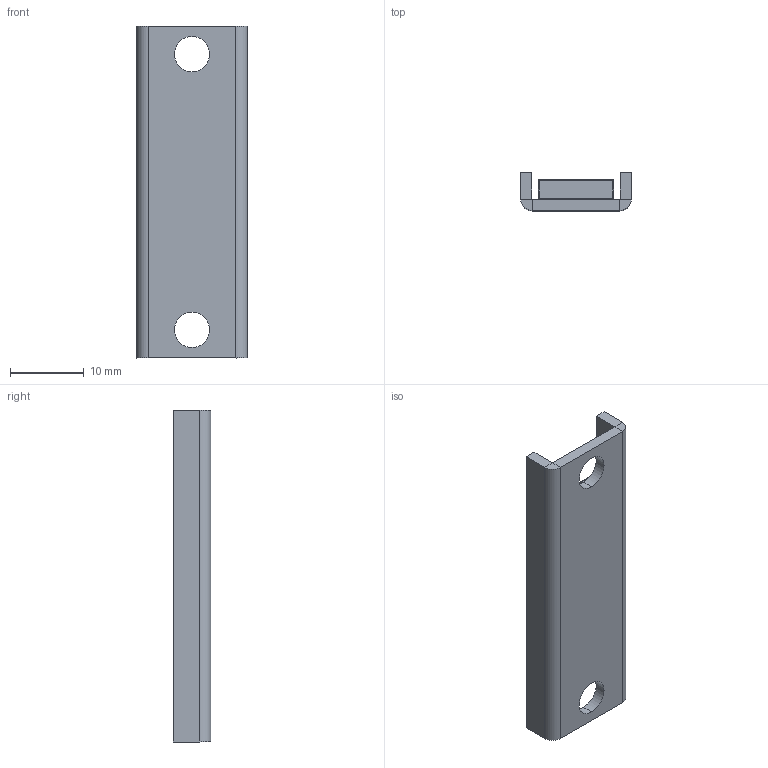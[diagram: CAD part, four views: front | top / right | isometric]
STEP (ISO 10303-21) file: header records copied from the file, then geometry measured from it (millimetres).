
FILE_DESCRIPTION (( 'STEP AP203' ), '1' );
FILE_NAME ('MX0477.STEP', '2018-07-27T12:29:29', ( '' ), ( '' ), 'SwSTEP 2.0', 'SolidWorks 2015', '' );
FILE_SCHEMA (( 'CONFIG_CONTROL_DESIGN' ));
Length unit declared in the file: inch
Products named in the file (1): MX0477
Bounding box: 14.99 x 5.08 x 44.96 mm (x, y, z)
Volume: 2173.4 mm3; surface area: 2868.2 mm2
Topology: 2 solids, 2 shells, 52 faces, 112 edges, 56 vertices
Faces by surface type: plane 24, cylinder 20, sphere 8
Entity records: 1393 total; most frequent: DIRECTION 250, CARTESIAN_POINT 213, ORIENTED_EDGE 208, EDGE_CURVE 104, AXIS2_PLACEMENT_3D 93, VECTOR 64, LINE 64, EDGE_LOOP 56
